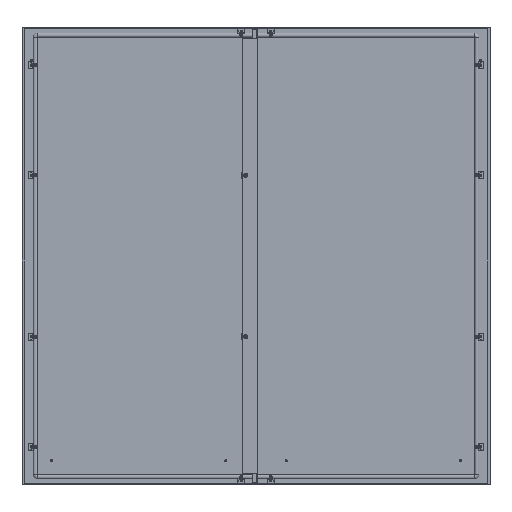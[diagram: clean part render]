
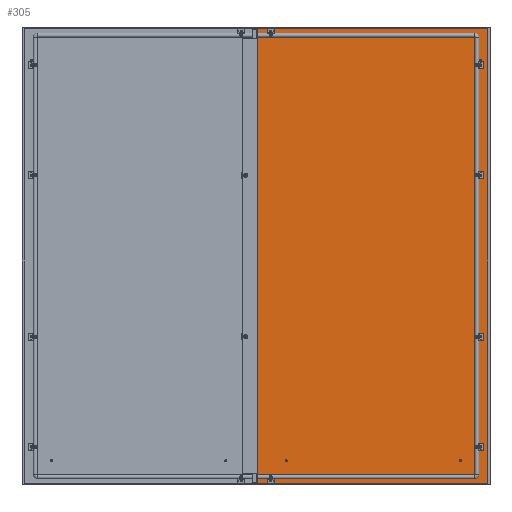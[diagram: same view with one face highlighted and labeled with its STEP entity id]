
A CAD part, top view. The second image highlights one B-rep face of the part: STEP entity #305.
In plain terms, the highlighted planar face has unit normal (0, 0, 1) as drawn and (0, 0, -1) by its records, which use the part's own axes.
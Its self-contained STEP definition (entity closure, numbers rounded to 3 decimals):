
#305 = ADVANCED_FACE('',(#306,#317,#328,#339,#350,#361,#372),#470,.T.);
#306 = FACE_BOUND('',#307,.T.);
#307 = EDGE_LOOP('',(#308));
#308 = ORIENTED_EDGE('',*,*,#309,.T.);
#309 = EDGE_CURVE('',#310,#310,#312,.T.);
#310 = VERTEX_POINT('',#311);
#311 = CARTESIAN_POINT('',(369.25,-650.,-1.5));
#312 = CIRCLE('',#313,4.75);
#313 = AXIS2_PLACEMENT_3D('',#314,#315,#316);
#314 = CARTESIAN_POINT('',(364.5,-650.,-1.5));
#315 = DIRECTION('',(0.,0.,1.));
#316 = DIRECTION('',(1.,0.,-0.));
#317 = FACE_BOUND('',#318,.T.);
#318 = EDGE_LOOP('',(#319));
#319 = ORIENTED_EDGE('',*,*,#320,.T.);
#320 = EDGE_CURVE('',#321,#321,#323,.T.);
#321 = VERTEX_POINT('',#322);
#322 = CARTESIAN_POINT('',(369.25,-275.,-1.5));
#323 = CIRCLE('',#324,4.75);
#324 = AXIS2_PLACEMENT_3D('',#325,#326,#327);
#325 = CARTESIAN_POINT('',(364.5,-275.,-1.5));
#326 = DIRECTION('',(0.,0.,1.));
#327 = DIRECTION('',(1.,0.,-0.));
#328 = FACE_BOUND('',#329,.T.);
#329 = EDGE_LOOP('',(#330));
#330 = ORIENTED_EDGE('',*,*,#331,.F.);
#331 = EDGE_CURVE('',#332,#332,#334,.T.);
#332 = VERTEX_POINT('',#333);
#333 = CARTESIAN_POINT('',(369.25,650.,-1.5));
#334 = CIRCLE('',#335,4.75);
#335 = AXIS2_PLACEMENT_3D('',#336,#337,#338);
#336 = CARTESIAN_POINT('',(364.5,650.,-1.5));
#337 = DIRECTION('',(0.,0.,-1.));
#338 = DIRECTION('',(1.,0.,0.));
#339 = FACE_BOUND('',#340,.T.);
#340 = EDGE_LOOP('',(#341));
#341 = ORIENTED_EDGE('',*,*,#342,.F.);
#342 = EDGE_CURVE('',#343,#343,#345,.T.);
#343 = VERTEX_POINT('',#344);
#344 = CARTESIAN_POINT('',(369.25,275.,-1.5));
#345 = CIRCLE('',#346,4.75);
#346 = AXIS2_PLACEMENT_3D('',#347,#348,#349);
#347 = CARTESIAN_POINT('',(364.5,275.,-1.5));
#348 = DIRECTION('',(0.,0.,-1.));
#349 = DIRECTION('',(1.,0.,0.));
#350 = FACE_BOUND('',#351,.T.);
#351 = EDGE_LOOP('',(#352));
#352 = ORIENTED_EDGE('',*,*,#353,.T.);
#353 = EDGE_CURVE('',#354,#354,#356,.T.);
#354 = VERTEX_POINT('',#355);
#355 = CARTESIAN_POINT('',(-354.75,764.5,-1.5));
#356 = CIRCLE('',#357,4.75);
#357 = AXIS2_PLACEMENT_3D('',#358,#359,#360);
#358 = CARTESIAN_POINT('',(-350.,764.5,-1.5));
#359 = DIRECTION('',(0.,0.,1.));
#360 = DIRECTION('',(-1.,0.,0.));
#361 = FACE_BOUND('',#362,.T.);
#362 = EDGE_LOOP('',(#363));
#363 = ORIENTED_EDGE('',*,*,#364,.T.);
#364 = EDGE_CURVE('',#365,#365,#367,.T.);
#365 = VERTEX_POINT('',#366);
#366 = CARTESIAN_POINT('',(-345.25,-764.5,-1.5));
#367 = CIRCLE('',#368,4.75);
#368 = AXIS2_PLACEMENT_3D('',#369,#370,#371);
#369 = CARTESIAN_POINT('',(-350.,-764.5,-1.5));
#370 = DIRECTION('',(0.,0.,1.));
#371 = DIRECTION('',(1.,0.,-0.));
#372 = FACE_BOUND('',#373,.T.);
#373 = EDGE_LOOP('',(#374,#384,#392,#400,#408,#416,#424,#432,#440,#448,
    #456,#464));
#374 = ORIENTED_EDGE('',*,*,#375,.F.);
#375 = EDGE_CURVE('',#376,#378,#380,.T.);
#376 = VERTEX_POINT('',#377);
#377 = CARTESIAN_POINT('',(-395.3,-776.,-1.5));
#378 = VERTEX_POINT('',#379);
#379 = CARTESIAN_POINT('',(395.3,-776.,-1.5));
#380 = LINE('',#381,#382);
#381 = CARTESIAN_POINT('',(0.,-776.,-1.5));
#382 = VECTOR('',#383,1.);
#383 = DIRECTION('',(1.,0.,0.));
#384 = ORIENTED_EDGE('',*,*,#385,.F.);
#385 = EDGE_CURVE('',#386,#376,#388,.T.);
#386 = VERTEX_POINT('',#387);
#387 = CARTESIAN_POINT('',(-395.3,-777.5,-1.5));
#388 = LINE('',#389,#390);
#389 = CARTESIAN_POINT('',(-395.3,0.,
    -1.5));
#390 = VECTOR('',#391,1.);
#391 = DIRECTION('',(0.,1.,0.));
#392 = ORIENTED_EDGE('',*,*,#393,.F.);
#393 = EDGE_CURVE('',#394,#386,#396,.T.);
#394 = VERTEX_POINT('',#395);
#395 = CARTESIAN_POINT('',(-395.5,-777.5,-1.5));
#396 = LINE('',#397,#398);
#397 = CARTESIAN_POINT('',(0.,-777.5,-1.5));
#398 = VECTOR('',#399,1.);
#399 = DIRECTION('',(1.,0.,0.));
#400 = ORIENTED_EDGE('',*,*,#401,.T.);
#401 = EDGE_CURVE('',#394,#402,#404,.T.);
#402 = VERTEX_POINT('',#403);
#403 = CARTESIAN_POINT('',(-395.5,777.5,-1.5));
#404 = LINE('',#405,#406);
#405 = CARTESIAN_POINT('',(-395.5,0.,-1.5));
#406 = VECTOR('',#407,1.);
#407 = DIRECTION('',(0.,1.,0.));
#408 = ORIENTED_EDGE('',*,*,#409,.F.);
#409 = EDGE_CURVE('',#410,#402,#412,.T.);
#410 = VERTEX_POINT('',#411);
#411 = CARTESIAN_POINT('',(-395.3,777.5,-1.5));
#412 = LINE('',#413,#414);
#413 = CARTESIAN_POINT('',(0.,777.5,-1.5));
#414 = VECTOR('',#415,1.);
#415 = DIRECTION('',(-1.,0.,0.));
#416 = ORIENTED_EDGE('',*,*,#417,.T.);
#417 = EDGE_CURVE('',#410,#418,#420,.T.);
#418 = VERTEX_POINT('',#419);
#419 = CARTESIAN_POINT('',(-395.3,776.,-1.5));
#420 = LINE('',#421,#422);
#421 = CARTESIAN_POINT('',(-395.3,0.,-1.5));
#422 = VECTOR('',#423,1.);
#423 = DIRECTION('',(0.,-1.,0.));
#424 = ORIENTED_EDGE('',*,*,#425,.F.);
#425 = EDGE_CURVE('',#426,#418,#428,.T.);
#426 = VERTEX_POINT('',#427);
#427 = CARTESIAN_POINT('',(395.3,776.,-1.5));
#428 = LINE('',#429,#430);
#429 = CARTESIAN_POINT('',(0.,776.,-1.5));
#430 = VECTOR('',#431,1.);
#431 = DIRECTION('',(-1.,0.,0.));
#432 = ORIENTED_EDGE('',*,*,#433,.F.);
#433 = EDGE_CURVE('',#434,#426,#436,.T.);
#434 = VERTEX_POINT('',#435);
#435 = CARTESIAN_POINT('',(395.3,777.5,-1.5));
#436 = LINE('',#437,#438);
#437 = CARTESIAN_POINT('',(395.3,0.,-1.5));
#438 = VECTOR('',#439,1.);
#439 = DIRECTION('',(0.,-1.,0.));
#440 = ORIENTED_EDGE('',*,*,#441,.F.);
#441 = EDGE_CURVE('',#442,#434,#444,.T.);
#442 = VERTEX_POINT('',#443);
#443 = CARTESIAN_POINT('',(395.5,777.5,-1.5));
#444 = LINE('',#445,#446);
#445 = CARTESIAN_POINT('',(0.,777.5,-1.5));
#446 = VECTOR('',#447,1.);
#447 = DIRECTION('',(-1.,0.,0.));
#448 = ORIENTED_EDGE('',*,*,#449,.T.);
#449 = EDGE_CURVE('',#442,#450,#452,.T.);
#450 = VERTEX_POINT('',#451);
#451 = CARTESIAN_POINT('',(395.5,-777.5,-1.5));
#452 = LINE('',#453,#454);
#453 = CARTESIAN_POINT('',(395.5,0.,-1.5));
#454 = VECTOR('',#455,1.);
#455 = DIRECTION('',(0.,-1.,0.));
#456 = ORIENTED_EDGE('',*,*,#457,.F.);
#457 = EDGE_CURVE('',#458,#450,#460,.T.);
#458 = VERTEX_POINT('',#459);
#459 = CARTESIAN_POINT('',(395.3,-777.5,-1.5));
#460 = LINE('',#461,#462);
#461 = CARTESIAN_POINT('',(0.,-777.5,-1.5));
#462 = VECTOR('',#463,1.);
#463 = DIRECTION('',(1.,0.,0.));
#464 = ORIENTED_EDGE('',*,*,#465,.T.);
#465 = EDGE_CURVE('',#458,#378,#466,.T.);
#466 = LINE('',#467,#468);
#467 = CARTESIAN_POINT('',(395.3,0.,-1.5));
#468 = VECTOR('',#469,1.);
#469 = DIRECTION('',(0.,1.,0.));
#470 = PLANE('',#471);
#471 = AXIS2_PLACEMENT_3D('',#472,#473,#474);
#472 = CARTESIAN_POINT('',(0.,0.,
    -1.5));
#473 = DIRECTION('',(-0.,0.,-1.));
#474 = DIRECTION('',(-1.,0.,0.));
